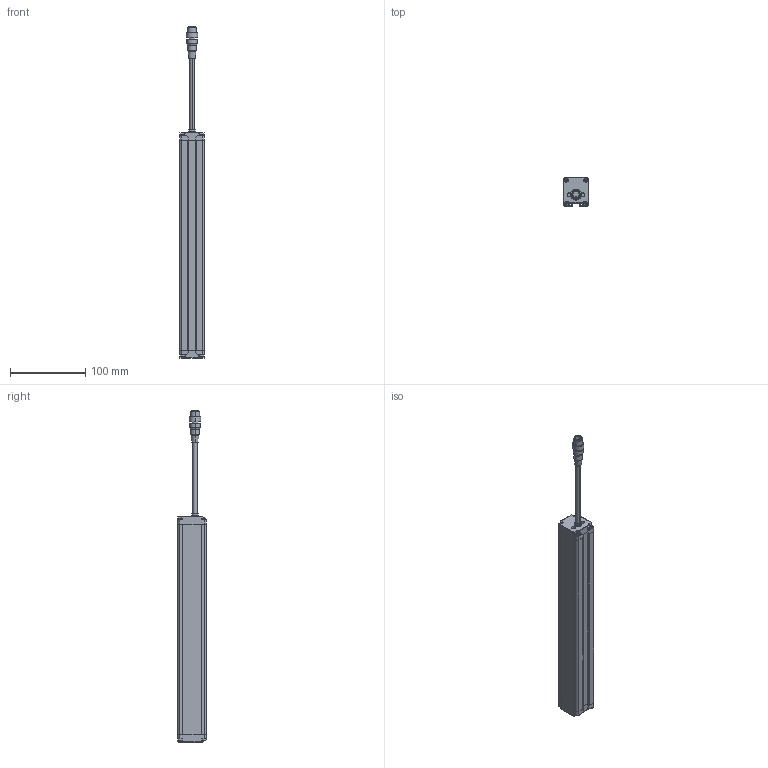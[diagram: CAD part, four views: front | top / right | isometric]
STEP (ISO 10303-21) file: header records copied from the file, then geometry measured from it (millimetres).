
FILE_DESCRIPTION((''),'2;1');
FILE_NAME('PRT0011','2026-03-31T10:13:11',('Administrator'),(''),'CREO PARAMETRIC BY PTC INC, 2016510','CREO PARAMETRIC BY PTC INC, 2016510','');
FILE_SCHEMA(('AUTOMOTIVE_DESIGN { 1 0 10303 214 1 1 1 1 }'));
Length unit declared in the file: millimetre
Products named in the file (1): PRT0011
Bounding box: 33 x 38 x 441.9 mm (x, y, z)
Surface area: 76394.3 mm2 (no closed solid volume)
Topology: 0 solids, 12 shells, 819 faces, 2213 edges, 1421 vertices
Faces by surface type: plane 388, cylinder 235, extrusion 88, sphere 40, torus 36, cone 28, bspline 4
Entity records: 32644 total; most frequent: CARTESIAN_POINT 6138, ORIENTED_EDGE 4338, DIRECTION 4080, EDGE_CURVE 2169, VERTEX_POINT 1421, AXIS2_PLACEMENT_3D 1393, VECTOR 1294, LINE 1206
